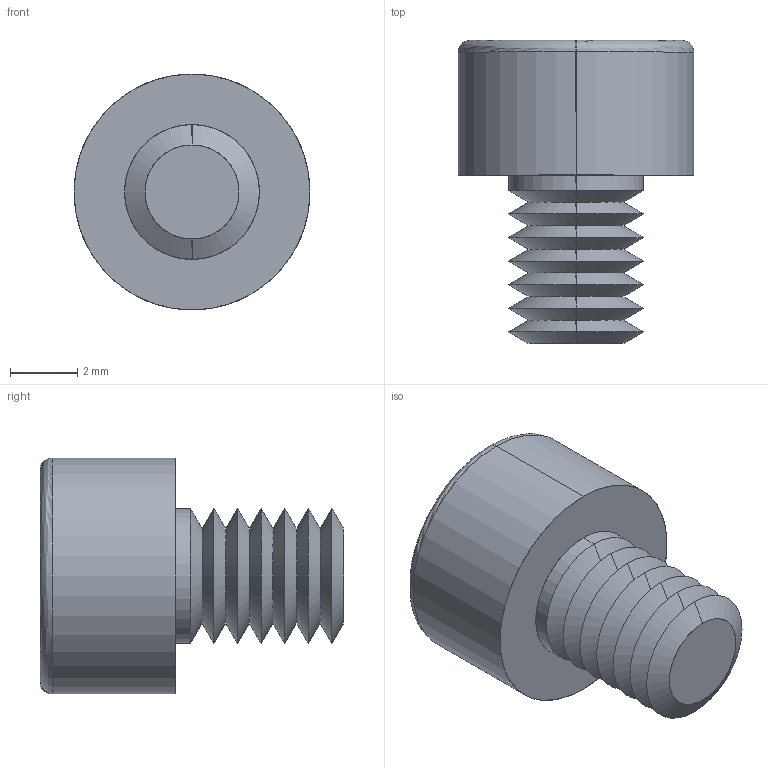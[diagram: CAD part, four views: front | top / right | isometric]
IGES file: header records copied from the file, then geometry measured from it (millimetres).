
Start section: SolidWorks IGES file using analytic representation for surfaces
Global section: file name: C:\Users\ianosborn\Desktop\N0007.91N_v2\N0007.91N_v2_20250519_IGES\91N.040.0050.igs; native system: SolidWorks 2019; preprocessor: SolidWorks 2019; author: IanOsborn; date: 250520.095024; units: millimetre
Bounding box: 7 x 9 x 7 mm (x, y, z)
Surface area: 289.7 mm2 (no closed solid volume)
Topology: 0 solids, 0 shells, 56 faces, 409 edges, 407 vertices
Faces by surface type: revolution 39, bspline 17
